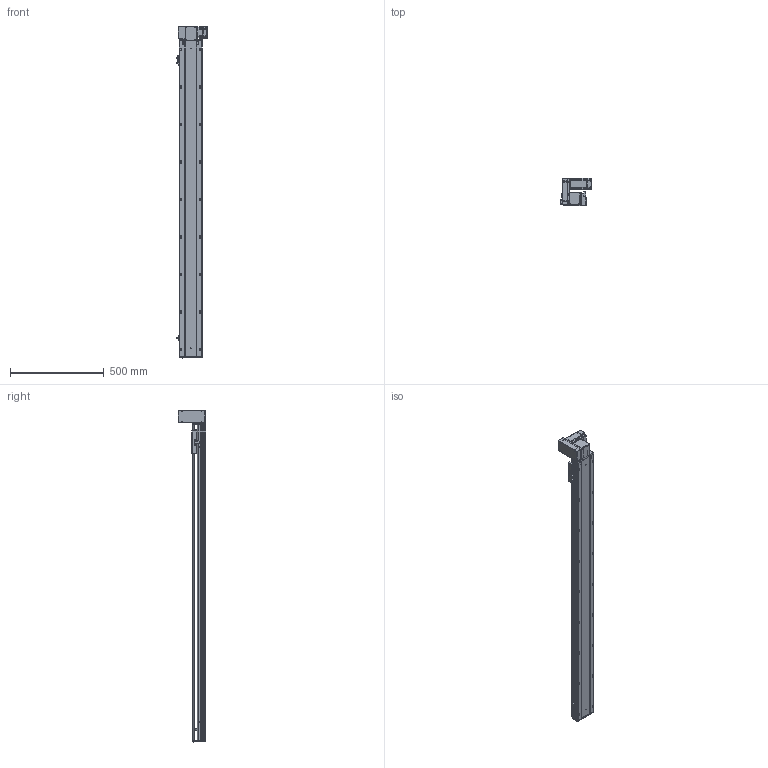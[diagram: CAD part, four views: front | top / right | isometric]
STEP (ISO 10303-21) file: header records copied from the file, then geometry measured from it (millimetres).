
FILE_DESCRIPTION (( 'STEP AP203' ), '1' );
FILE_NAME ('RY120-T-300-UL.SLDASM_1450.step', '2021-03-01T05:36:57', ( '盈信电脑' ), ( '东莞市道滘镇水果街19号' ), 'SwSTEP 2.0', 'SolidWorks 2012', '' );
FILE_SCHEMA (( 'CONFIG_CONTROL_DESIGN' ));
Length unit declared in the file: millimetre
Products named in the file (18): RY120-T蹟翐M4; RY120-T-300-UL.SLDASM_1450; RY120-T翋肮祭謫裔啣; 滅袉蝶18-10; RY120-T萇儂欶; RY120-T主同步轮轴承压盖; 15; RY120-T萇儂假蚾啣; 侂狟400W侜督萇儂; RY120-T翋肮祭盓傅釱; RY120外置感应片(140共用）; RY120-T肮祭湍揤踡輸1; RY120-T肮祭湍揤踡輸2; RY120肮祭湍臏賑輸; 覜茼ん672; RY120綴裔啣; RY120-T-300-UL倰第奻裔啣_1450; RY120-T-300-UL倰第菁釱_1450
Assembly tree (23 placements, depth 3):
  RY120-T-300-UL.SLDASM_1450
    RY120-T-300-UL倰第菁釱_1450
    RY120-T-300-UL倰第奻裔啣_1450
    RY120肮祭湍臏賑輸
    RY120綴裔啣
    覜茼ん672  x3
    RY120外置感应片(140共用）
    RY120-T肮祭湍揤踡輸1
    RY120-T肮祭湍揤踡輸2
    RY120-T翋肮祭盓傅釱
    RY120-T萇儂假蚾啣
    侂狟400W侜督萇儂
      15
    RY120-T主同步轮轴承压盖
    滅袉蝶18-10  x2
    RY120-T萇儂欶
    RY120-T蹟翐M4  x4
    RY120-T翋肮祭謫裔啣
Bounding box: 164.2 x 146 x 1771 mm (x, y, z)
Volume: 4602123.7 mm3; surface area: 1741066.4 mm2
Topology: 23 solids, 23 shells, 2964 faces, 8096 edges, 5174 vertices
Faces by surface type: plane 1436, cylinder 1154, cone 285, bspline 89
Entity records: 94926 total; most frequent: CARTESIAN_POINT 24438, ORIENTED_EDGE 14552, DIRECTION 13754, EDGE_CURVE 7276, VERTEX_POINT 4761, AXIS2_PLACEMENT_3D 4641, LINE 4472, VECTOR 4472
